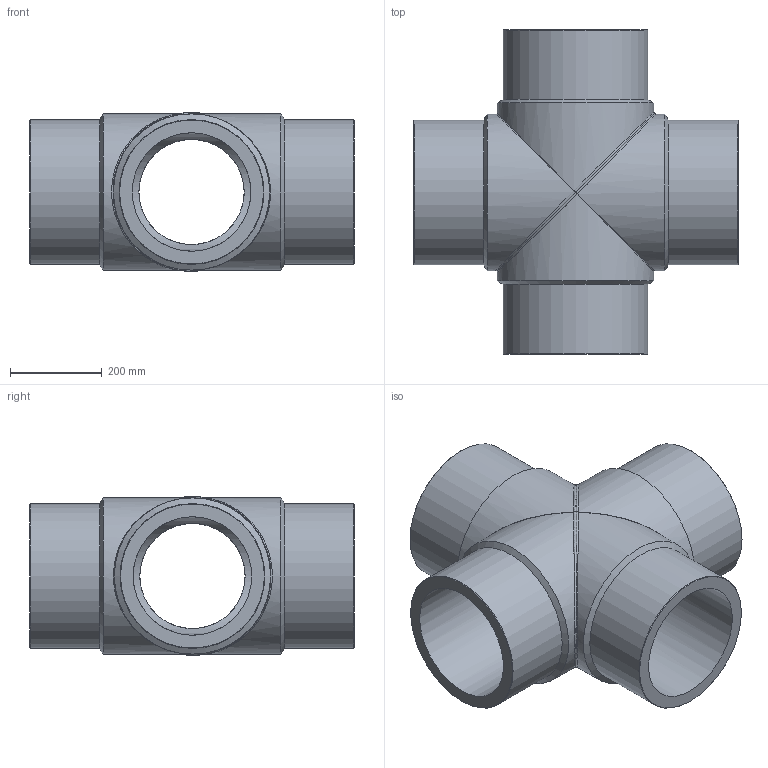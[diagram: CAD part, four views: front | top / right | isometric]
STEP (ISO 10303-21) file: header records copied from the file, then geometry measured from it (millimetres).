
FILE_DESCRIPTION(/* description */ ('Unknown'),/* implementation_level */ '2;1');
FILE_NAME(/* name */ 'CRP315H',/* time_stamp */ '2022-07-08T15:36:26+02:00',/* author */ ('Unknown'),/* organization */ ('Unknown'),/* preprocessor_version */ 'ST-DEVELOPER v18.102',/* originating_system */ 'Solid Edge',/* authorisation */ 'Unknown');
FILE_SCHEMA (('AUTOMOTIVE_DESIGN {1 0 10303 214 3 1 1}'));
Length unit declared in the file: millimetre
Products named in the file (3): CRP315H; CRP315H_mir
Assembly tree (2 placements, depth 2):
  CRP315H
    CRP315H
    CRP315H_mir
Bounding box: 706 x 706 x 344.99 mm (x, y, z)
Volume: 37535568 mm3; surface area: 2105095.8 mm2
Topology: 2 solids, 2 shells, 32 faces, 88 edges, 60 vertices
Faces by surface type: cylinder 12, cone 8, plane 6, bspline 6
Full cylindrical faces by diameter (mm): 228.8 x2, 257.8 x2, 315 x4, 340 x4
Entity records: 4113 total; most frequent: CARTESIAN_POINT 3411, DIRECTION 118, ORIENTED_EDGE 112, EDGE_LOOP 60, FACE_BOUND 60, AXIS2_PLACEMENT_3D 59, EDGE_CURVE 56, VERTEX_POINT 48
